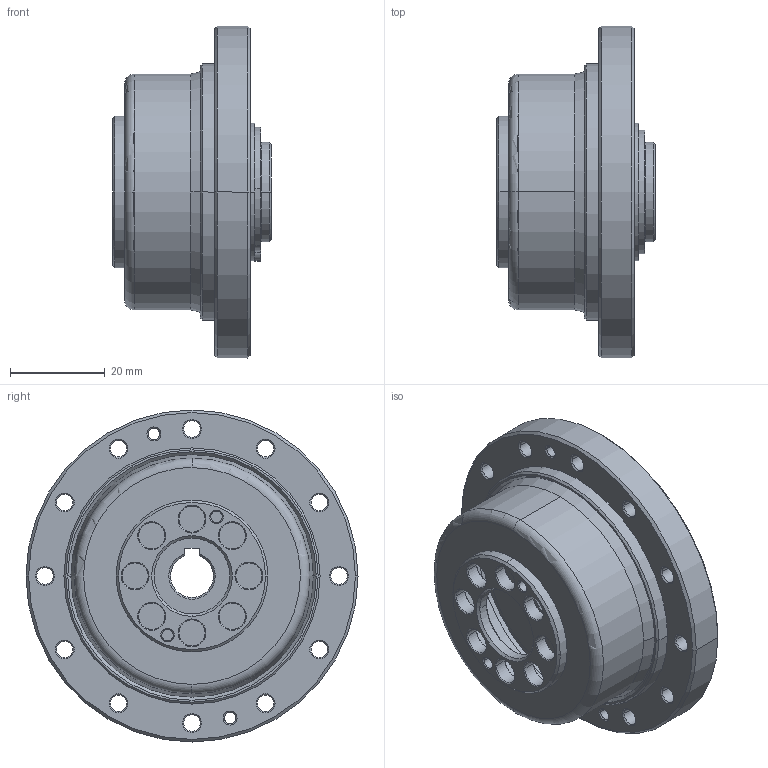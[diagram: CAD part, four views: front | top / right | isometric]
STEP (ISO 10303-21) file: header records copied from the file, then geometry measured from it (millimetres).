
FILE_DESCRIPTION(('STEP AP214'),'1');
FILE_NAME('cctmp_C923787F-A5D2-4AA2-9D7F-B082DFB0C610_2025_03_06_11_15_20_0847_25860..stp','2025-03-06T10:15:21',('HIWIN GmbH'),('CADClick - www.CADClick.com'),'Spatial InterOp 3D',' ','unknown authorization');
FILE_SCHEMA(('AUTOMOTIVE_DESIGN'));
Length unit declared in the file: millimetre
Products named in the file (2): DSC-20-XX-CO_FILE; 2025_03_06_11_15_20_0847
Assembly tree (1 placements, depth 2):
  DSC-20-XX-CO_FILE
    2025_03_06_11_15_20_0847
Bounding box: 33.5 x 70 x 70 mm (x, y, z)
Volume: 42429.3 mm3; surface area: 20983.3 mm2
Topology: 1 solids, 1 shells, 257 faces, 627 edges, 386 vertices
Faces by surface type: cone 127, cylinder 93, plane 31, torus 6
Entity records: 10144 total; most frequent: CARTESIAN_POINT 1617, DIRECTION 1499, ORIENTED_EDGE 1254, AXIS2_PLACEMENT_3D 629, EDGE_CURVE 627, VERTEX_POINT 386, CIRCLE 370, EDGE_LOOP 321
